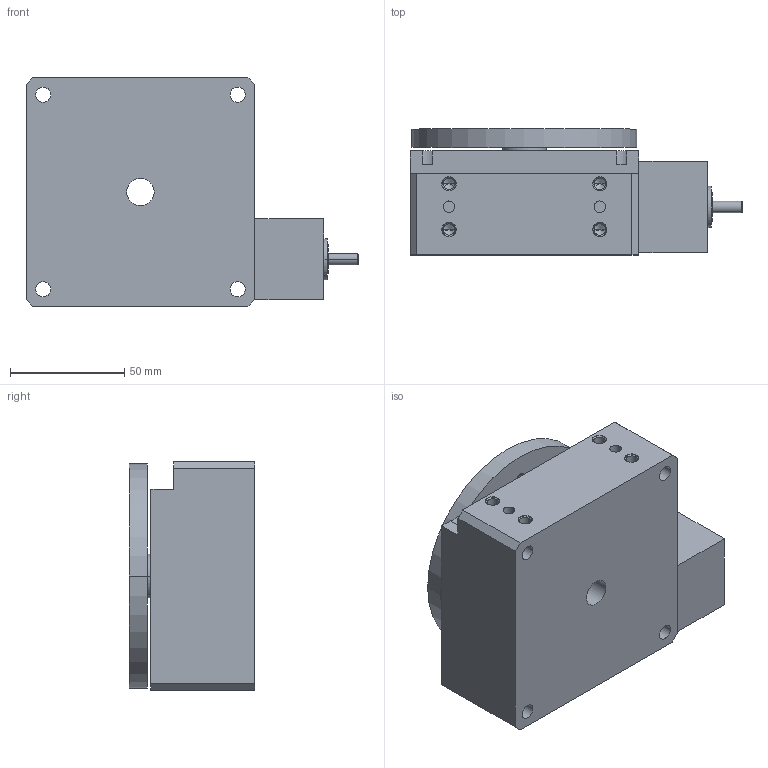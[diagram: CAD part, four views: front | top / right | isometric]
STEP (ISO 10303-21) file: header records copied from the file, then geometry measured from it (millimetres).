
FILE_DESCRIPTION((''),'2;1');
FILE_NAME('R100M6M00E0_ASM','2009-07-02T',('FK20128'),(''),'PRO/ENGINEER BY PARAMETRIC TECHNOLOGY CORPORATION, 2006200','PRO/ENGINEER BY PARAMETRIC TECHNOLOGY CORPORATION, 2006200','');
FILE_SCHEMA(('CONFIG_CONTROL_DESIGN'));
Length unit declared in the file: millimetre
Products named in the file (2): R100M; R100M6M00E0_ASM
Assembly tree (1 placements, depth 2):
  R100M6M00E0_ASM
    R100M
Bounding box: 145.1 x 55.01 x 100 mm (x, y, z)
Volume: 530674.8 mm3; surface area: 69662.9 mm2
Topology: 1 solids, 15 shells, 178 faces, 436 edges, 286 vertices
Faces by surface type: cylinder 104, plane 52, cone 22
Entity records: 5384 total; most frequent: DIRECTION 1036, CARTESIAN_POINT 893, ORIENTED_EDGE 792, AXIS2_PLACEMENT_3D 429, EDGE_CURVE 424, VERTEX_POINT 286, CIRCLE 246, EDGE_LOOP 242
